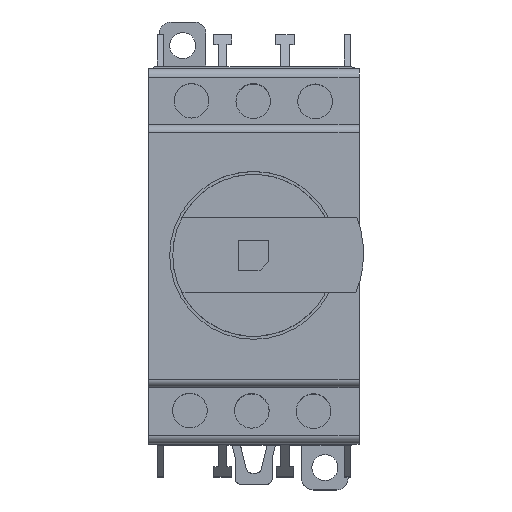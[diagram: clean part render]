
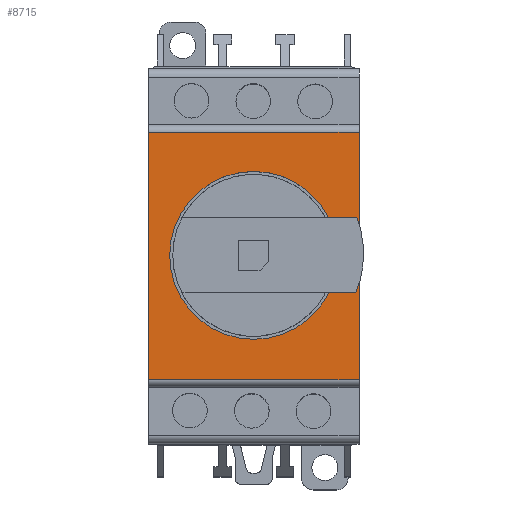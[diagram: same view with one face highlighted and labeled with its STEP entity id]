
A CAD part, top view. The second image highlights one B-rep face of the part: STEP entity #8715.
In plain terms, the highlighted planar face has unit normal (0, 0, 1).
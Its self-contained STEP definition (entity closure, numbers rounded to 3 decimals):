
#36 = CARTESIAN_POINT ( 'NONE',  ( 18.212, -21.486, 63.7 ) ) ;
#444 = DIRECTION ( 'NONE',  ( 0., 0., 1. ) ) ;
#452 = CARTESIAN_POINT ( 'NONE',  ( -18.212, -21.486, 63.7 ) ) ;
#733 = VERTEX_POINT ( 'NONE', #8643 ) ;
#847 = DIRECTION ( 'NONE',  ( 0., 0., 1. ) ) ;
#907 = ORIENTED_EDGE ( 'NONE', *, *, #2613, .F. ) ;
#1145 = LINE ( 'NONE', #7424, #9108 ) ;
#1943 = EDGE_LOOP ( 'NONE', ( #6362, #2919 ) ) ;
#1973 = CARTESIAN_POINT ( 'NONE',  ( 14.503, 0.001, 63.7 ) ) ;
#2087 = DIRECTION ( 'NONE',  ( 0., 0., 1. ) ) ;
#2291 = CARTESIAN_POINT ( 'NONE',  ( -18.212, 21.281, 63.7 ) ) ;
#2400 = VERTEX_POINT ( 'NONE', #452 ) ;
#2613 = EDGE_CURVE ( 'NONE', #8749, #2400, #6919, .T. ) ;
#2919 = ORIENTED_EDGE ( 'NONE', *, *, #5969, .F. ) ;
#3044 = AXIS2_PLACEMENT_3D ( 'NONE', #36, #847, #6407 ) ;
#3152 = CARTESIAN_POINT ( 'NONE',  ( 18.212, -21.486, 63.7 ) ) ;
#3565 = CARTESIAN_POINT ( 'NONE',  ( 18.212, 21.281, 63.7 ) ) ;
#3690 = ORIENTED_EDGE ( 'NONE', *, *, #7562, .F. ) ;
#3722 = CARTESIAN_POINT ( 'NONE',  ( -0.021, 0.001, 63.7 ) ) ;
#3930 = EDGE_CURVE ( 'NONE', #6716, #733, #5627, .T. ) ;
#3963 = DIRECTION ( 'NONE',  ( -1., 0., 0. ) ) ;
#4123 = LINE ( 'NONE', #10257, #4251 ) ;
#4251 = VECTOR ( 'NONE', #4768, 1000. ) ;
#4409 = DIRECTION ( 'NONE',  ( 1., 0., 0. ) ) ;
#4720 = AXIS2_PLACEMENT_3D ( 'NONE', #9163, #444, #4409 ) ;
#4768 = DIRECTION ( 'NONE',  ( -1., 0., 0. ) ) ;
#4769 = PLANE ( 'NONE',  #3044 ) ;
#4964 = CARTESIAN_POINT ( 'NONE',  ( -18.212, -21.486, 63.7 ) ) ;
#5502 = LINE ( 'NONE', #4964, #9956 ) ;
#5627 = CIRCLE ( 'NONE', #4720, 14.524 ) ;
#5864 = FACE_OUTER_BOUND ( 'NONE', #7764, .T. ) ;
#5969 = EDGE_CURVE ( 'NONE', #733, #6716, #9762, .T. ) ;
#6134 = VERTEX_POINT ( 'NONE', #3565 ) ;
#6362 = ORIENTED_EDGE ( 'NONE', *, *, #3930, .F. ) ;
#6407 = DIRECTION ( 'NONE',  ( 0., -1., 0. ) ) ;
#6716 = VERTEX_POINT ( 'NONE', #1973 ) ;
#6919 = LINE ( 'NONE', #3152, #8896 ) ;
#7015 = EDGE_CURVE ( 'NONE', #8749, #6134, #1145, .T. ) ;
#7327 = AXIS2_PLACEMENT_3D ( 'NONE', #3722, #2087, #9275 ) ;
#7424 = CARTESIAN_POINT ( 'NONE',  ( 18.212, -21.486, 63.7 ) ) ;
#7562 = EDGE_CURVE ( 'NONE', #2400, #8612, #5502, .T. ) ;
#7606 = FACE_BOUND ( 'NONE', #1943, .T. ) ;
#7764 = EDGE_LOOP ( 'NONE', ( #9828, #9638, #3690, #907 ) ) ;
#7977 = EDGE_CURVE ( 'NONE', #6134, #8612, #4123, .T. ) ;
#8226 = DIRECTION ( 'NONE',  ( 0., 1., 0. ) ) ;
#8612 = VERTEX_POINT ( 'NONE', #2291 ) ;
#8643 = CARTESIAN_POINT ( 'NONE',  ( -14.545, 0.001, 63.7 ) ) ;
#8715 = ADVANCED_FACE ( 'NONE', ( #7606, #5864 ), #4769, .T. ) ;
#8749 = VERTEX_POINT ( 'NONE', #8784 ) ;
#8784 = CARTESIAN_POINT ( 'NONE',  ( 18.212, -21.486, 63.7 ) ) ;
#8896 = VECTOR ( 'NONE', #3963, 1000. ) ;
#8961 = DIRECTION ( 'NONE',  ( 0., 1., 0. ) ) ;
#9108 = VECTOR ( 'NONE', #8226, 1000. ) ;
#9163 = CARTESIAN_POINT ( 'NONE',  ( -0.021, 0.001, 63.7 ) ) ;
#9275 = DIRECTION ( 'NONE',  ( 1., 0., 0. ) ) ;
#9638 = ORIENTED_EDGE ( 'NONE', *, *, #7977, .T. ) ;
#9762 = CIRCLE ( 'NONE', #7327, 14.524 ) ;
#9828 = ORIENTED_EDGE ( 'NONE', *, *, #7015, .T. ) ;
#9956 = VECTOR ( 'NONE', #8961, 1000. ) ;
#10257 = CARTESIAN_POINT ( 'NONE',  ( 18.212, 21.281, 63.7 ) ) ;
